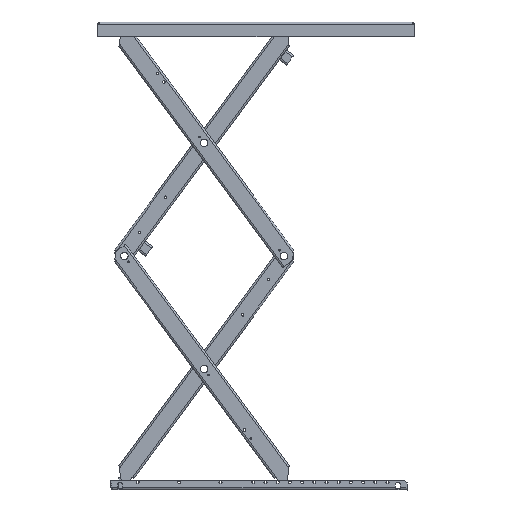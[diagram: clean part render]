
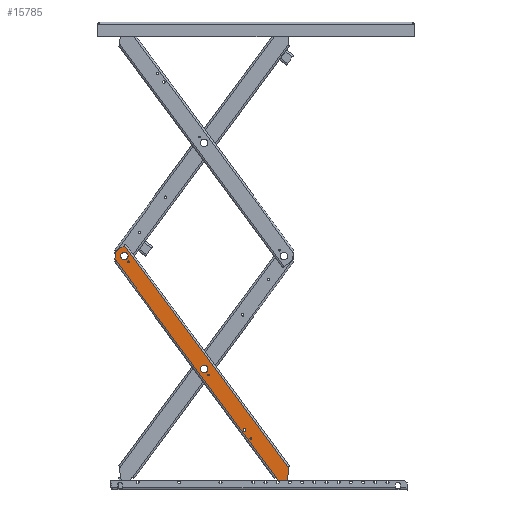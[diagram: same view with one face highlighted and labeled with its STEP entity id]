
A CAD part, front view. The second image highlights one B-rep face of the part: STEP entity #15785.
In plain terms, the highlighted planar face has unit normal (0, -1, 0) as drawn and (1, 0, 0) by its records, which use the part's own axes.
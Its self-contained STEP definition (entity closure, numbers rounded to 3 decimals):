
#989=FACE_BOUND('',#3557,.T.);
#990=FACE_BOUND('',#3558,.T.);
#991=FACE_BOUND('',#3559,.T.);
#992=FACE_BOUND('',#3560,.T.);
#993=FACE_BOUND('',#3561,.T.);
#994=FACE_BOUND('',#3562,.T.);
#995=FACE_BOUND('',#3563,.T.);
#1617=CIRCLE('',#17312,4.);
#1647=CIRCLE('',#17351,4.);
#1666=CIRCLE('',#17388,5.25);
#1667=CIRCLE('',#17390,5.);
#1668=CIRCLE('',#17393,5.);
#1669=CIRCLE('',#17400,15.15);
#1670=CIRCLE('',#17403,15.15);
#1671=CIRCLE('',#17406,5.1);
#1672=CIRCLE('',#17409,3.7);
#1673=CIRCLE('',#17412,3.7);
#1674=CIRCLE('',#17415,3.7);
#1675=CIRCLE('',#17420,5.);
#1676=CIRCLE('',#17423,5.);
#2484=FACE_OUTER_BOUND('',#3556,.T.);
#3556=EDGE_LOOP('',(#14536,#14537,#14538,#14539,#14540,#14541,#14542,#14543,
#14544,#14545,#14546,#14547,#14548,#14549,#14550));
#3557=EDGE_LOOP('',(#14551));
#3558=EDGE_LOOP('',(#14552));
#3559=EDGE_LOOP('',(#14553));
#3560=EDGE_LOOP('',(#14554));
#3561=EDGE_LOOP('',(#14555));
#3562=EDGE_LOOP('',(#14556));
#3563=EDGE_LOOP('',(#14557));
#4914=LINE('',#27201,#6341);
#4942=LINE('',#27372,#6369);
#4961=LINE('',#27491,#6388);
#4963=LINE('',#27508,#6390);
#4971=LINE('',#27556,#6398);
#4974=LINE('',#27568,#6401);
#4976=LINE('',#27575,#6403);
#4987=LINE('',#27636,#6414);
#4993=LINE('',#27652,#6420);
#6341=VECTOR('',#21561,10.);
#6369=VECTOR('',#21665,10.);
#6388=VECTOR('',#21728,10.);
#6390=VECTOR('',#21734,10.);
#6398=VECTOR('',#21760,10.);
#6401=VECTOR('',#21775,10.);
#6403=VECTOR('',#21783,10.);
#6414=VECTOR('',#21848,10.);
#6420=VECTOR('',#21872,10.);
#7802=VERTEX_POINT('',#27188);
#7803=VERTEX_POINT('',#27189);
#7807=VERTEX_POINT('',#27199);
#7858=VERTEX_POINT('',#27365);
#7859=VERTEX_POINT('',#27366);
#7860=VERTEX_POINT('',#27371);
#7861=VERTEX_POINT('',#27375);
#7889=VERTEX_POINT('',#27497);
#7896=VERTEX_POINT('',#27554);
#7897=VERTEX_POINT('',#27559);
#7898=VERTEX_POINT('',#27562);
#7899=VERTEX_POINT('',#27563);
#7900=VERTEX_POINT('',#27570);
#7901=VERTEX_POINT('',#27574);
#7902=VERTEX_POINT('',#27585);
#7903=VERTEX_POINT('',#27589);
#7904=VERTEX_POINT('',#27593);
#7905=VERTEX_POINT('',#27597);
#7906=VERTEX_POINT('',#27601);
#7907=VERTEX_POINT('',#27605);
#7909=VERTEX_POINT('',#27629);
#7910=VERTEX_POINT('',#27634);
#9976=EDGE_CURVE('',#7802,#7803,#1617,.T.);
#9982=EDGE_CURVE('',#7807,#7802,#4914,.T.);
#10040=EDGE_CURVE('',#7858,#7859,#1647,.T.);
#10043=EDGE_CURVE('',#7860,#7859,#4942,.T.);
#10080=EDGE_CURVE('',#7858,#7861,#4961,.T.);
#10084=EDGE_CURVE('',#7889,#7807,#4963,.T.);
#10097=EDGE_CURVE('',#7861,#7896,#4971,.T.);
#10098=EDGE_CURVE('',#7897,#7897,#1666,.T.);
#10099=EDGE_CURVE('',#7898,#7899,#1667,.T.);
#10102=EDGE_CURVE('',#7898,#7803,#4974,.T.);
#10103=EDGE_CURVE('',#7860,#7900,#1668,.T.);
#10105=EDGE_CURVE('',#7900,#7901,#4976,.T.);
#10110=EDGE_CURVE('',#7902,#7902,#1669,.T.);
#10111=EDGE_CURVE('',#7903,#7903,#1670,.T.);
#10112=EDGE_CURVE('',#7904,#7904,#1671,.T.);
#10113=EDGE_CURVE('',#7905,#7905,#1672,.T.);
#10114=EDGE_CURVE('',#7906,#7906,#1673,.T.);
#10115=EDGE_CURVE('',#7907,#7907,#1674,.T.);
#10121=EDGE_CURVE('',#7889,#7909,#1675,.T.);
#10124=EDGE_CURVE('',#7909,#7910,#4987,.T.);
#10125=EDGE_CURVE('',#7910,#7901,#1676,.T.);
#10132=EDGE_CURVE('',#7896,#7899,#4993,.T.);
#14536=ORIENTED_EDGE('',*,*,#9976,.F.);
#14537=ORIENTED_EDGE('',*,*,#9982,.F.);
#14538=ORIENTED_EDGE('',*,*,#10084,.F.);
#14539=ORIENTED_EDGE('',*,*,#10121,.T.);
#14540=ORIENTED_EDGE('',*,*,#10124,.T.);
#14541=ORIENTED_EDGE('',*,*,#10125,.T.);
#14542=ORIENTED_EDGE('',*,*,#10105,.F.);
#14543=ORIENTED_EDGE('',*,*,#10103,.F.);
#14544=ORIENTED_EDGE('',*,*,#10043,.T.);
#14545=ORIENTED_EDGE('',*,*,#10040,.F.);
#14546=ORIENTED_EDGE('',*,*,#10080,.T.);
#14547=ORIENTED_EDGE('',*,*,#10097,.T.);
#14548=ORIENTED_EDGE('',*,*,#10132,.T.);
#14549=ORIENTED_EDGE('',*,*,#10099,.F.);
#14550=ORIENTED_EDGE('',*,*,#10102,.T.);
#14551=ORIENTED_EDGE('',*,*,#10098,.T.);
#14552=ORIENTED_EDGE('',*,*,#10115,.T.);
#14553=ORIENTED_EDGE('',*,*,#10114,.T.);
#14554=ORIENTED_EDGE('',*,*,#10113,.T.);
#14555=ORIENTED_EDGE('',*,*,#10112,.T.);
#14556=ORIENTED_EDGE('',*,*,#10111,.T.);
#14557=ORIENTED_EDGE('',*,*,#10110,.T.);
#14977=PLANE('',#17430);
#15785=ADVANCED_FACE('',(#2484,#989,#990,#991,#992,#993,#994,#995),#14977,
 .T.);
#17312=AXIS2_PLACEMENT_3D('',#27190,#21551,#21552);
#17351=AXIS2_PLACEMENT_3D('',#27367,#21659,#21660);
#17388=AXIS2_PLACEMENT_3D('',#27560,#21765,#21766);
#17390=AXIS2_PLACEMENT_3D('',#27564,#21769,#21770);
#17393=AXIS2_PLACEMENT_3D('',#27571,#21778,#21779);
#17400=AXIS2_PLACEMENT_3D('',#27586,#21798,#21799);
#17403=AXIS2_PLACEMENT_3D('',#27590,#21804,#21805);
#17406=AXIS2_PLACEMENT_3D('',#27594,#21810,#21811);
#17409=AXIS2_PLACEMENT_3D('',#27598,#21816,#21817);
#17412=AXIS2_PLACEMENT_3D('',#27602,#21822,#21823);
#17415=AXIS2_PLACEMENT_3D('',#27606,#21828,#21829);
#17420=AXIS2_PLACEMENT_3D('',#27631,#21842,#21843);
#17423=AXIS2_PLACEMENT_3D('',#27638,#21851,#21852);
#17430=AXIS2_PLACEMENT_3D('',#27651,#21870,#21871);
#21551=DIRECTION('center_axis',(-1.,0.,0.));
#21552=DIRECTION('ref_axis',(0.,-0.924,0.383));
#21561=DIRECTION('',(0.,0.,1.));
#21659=DIRECTION('center_axis',(-1.,0.,0.));
#21660=DIRECTION('ref_axis',(0.,0.924,-0.383));
#21665=DIRECTION('',(0.,0.707,0.707));
#21728=DIRECTION('',(0.,0.,1.));
#21734=DIRECTION('',(0.,0.,1.));
#21760=DIRECTION('',(0.,0.,1.));
#21765=DIRECTION('center_axis',(-1.,0.,0.));
#21766=DIRECTION('ref_axis',(0.,1.,0.));
#21769=DIRECTION('center_axis',(-1.,0.,0.));
#21770=DIRECTION('ref_axis',(0.,-0.383,0.924));
#21775=DIRECTION('',(0.,-0.707,-0.707));
#21778=DIRECTION('center_axis',(-1.,0.,0.));
#21779=DIRECTION('ref_axis',(0.,0.383,-0.924));
#21783=DIRECTION('',(0.,-1.,0.));
#21798=DIRECTION('center_axis',(-1.,0.,0.));
#21799=DIRECTION('ref_axis',(0.,0.,-1.));
#21804=DIRECTION('center_axis',(-1.,0.,0.));
#21805=DIRECTION('ref_axis',(0.,0.,-1.));
#21810=DIRECTION('center_axis',(-1.,0.,0.));
#21811=DIRECTION('ref_axis',(0.,0.,-1.));
#21816=DIRECTION('center_axis',(-1.,0.,0.));
#21817=DIRECTION('ref_axis',(0.,0.,-1.));
#21822=DIRECTION('center_axis',(-1.,0.,0.));
#21823=DIRECTION('ref_axis',(0.,0.,-1.));
#21828=DIRECTION('center_axis',(-1.,0.,0.));
#21829=DIRECTION('ref_axis',(0.,0.,-1.));
#21842=DIRECTION('center_axis',(-1.,0.,0.));
#21843=DIRECTION('ref_axis',(0.,0.,1.));
#21848=DIRECTION('',(0.,0.,-1.));
#21851=DIRECTION('center_axis',(1.,0.,0.));
#21852=DIRECTION('ref_axis',(0.,0.,1.));
#21870=DIRECTION('center_axis',(1.,0.,0.));
#21871=DIRECTION('ref_axis',(0.,0.,-1.));
#21872=DIRECTION('',(0.,-1.,0.));
#27188=CARTESIAN_POINT('',(20.,-32.,1156.343));
#27189=CARTESIAN_POINT('',(20.,-30.828,1159.172));
#27190=CARTESIAN_POINT('Origin',(20.,-28.,1156.343));
#27199=CARTESIAN_POINT('',(20.,-32.,1154.));
#27201=CARTESIAN_POINT('',(20.,-32.,0.));
#27365=CARTESIAN_POINT('',(20.,32.,43.657));
#27366=CARTESIAN_POINT('',(20.,30.828,40.828));
#27367=CARTESIAN_POINT('Origin',(20.,28.,43.657));
#27371=CARTESIAN_POINT('',(20.,-8.536,1.464));
#27372=CARTESIAN_POINT('',(20.,0.5,10.5));
#27375=CARTESIAN_POINT('',(20.,32.,46.));
#27491=CARTESIAN_POINT('',(20.,32.,0.));
#27497=CARTESIAN_POINT('',(20.,-32.,43.));
#27508=CARTESIAN_POINT('',(20.,-32.,0.));
#27554=CARTESIAN_POINT('',(20.,32.,1180.));
#27556=CARTESIAN_POINT('',(20.,32.,0.));
#27559=CARTESIAN_POINT('',(20.,-14.75,278.));
#27560=CARTESIAN_POINT('Origin',(20.,-20.,278.));
#27562=CARTESIAN_POINT('',(20.,-11.464,1178.536));
#27563=CARTESIAN_POINT('',(20.,-7.929,1180.));
#27564=CARTESIAN_POINT('Origin',(20.,-7.929,1175.));
#27568=CARTESIAN_POINT('',(20.,-294.5,895.5));
#27570=CARTESIAN_POINT('',(20.,-12.071,0.));
#27571=CARTESIAN_POINT('Origin',(20.,-12.071,5.));
#27574=CARTESIAN_POINT('',(20.,-26.,0.));
#27575=CARTESIAN_POINT('',(20.,16.,0.));
#27585=CARTESIAN_POINT('',(20.,-5.,592.65));
#27586=CARTESIAN_POINT('Origin',(20.,-5.,577.5));
#27589=CARTESIAN_POINT('',(20.,7.,1160.15));
#27590=CARTESIAN_POINT('Origin',(20.,7.,1145.));
#27593=CARTESIAN_POINT('',(20.,-17.,15.1));
#27594=CARTESIAN_POINT('Origin',(20.,-17.,10.));
#27597=CARTESIAN_POINT('',(20.,7.,1118.7));
#27598=CARTESIAN_POINT('Origin',(20.,7.,1115.));
#27601=CARTESIAN_POINT('',(20.,-5.,551.2));
#27602=CARTESIAN_POINT('Origin',(20.,-5.,547.5));
#27605=CARTESIAN_POINT('',(20.,-20.,238.7));
#27606=CARTESIAN_POINT('Origin',(20.,-20.,235.));
#27629=CARTESIAN_POINT('',(20.,-31.,40.));
#27631=CARTESIAN_POINT('Origin',(20.,-36.,40.));
#27634=CARTESIAN_POINT('',(20.,-31.,5.));
#27636=CARTESIAN_POINT('',(20.,-31.,20.));
#27638=CARTESIAN_POINT('Origin',(20.,-26.,5.));
#27651=CARTESIAN_POINT('Origin',(20.,32.,0.));
#27652=CARTESIAN_POINT('',(20.,16.,1180.));
